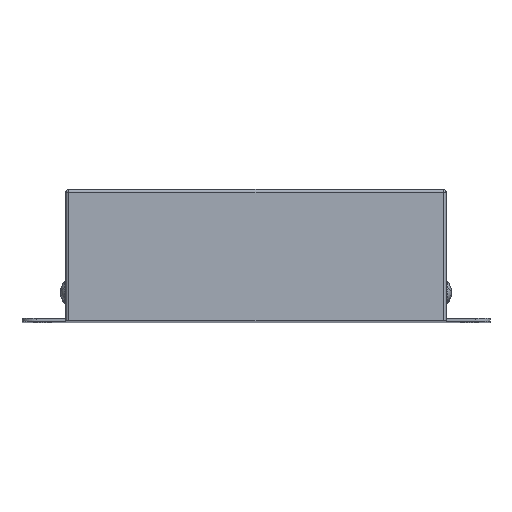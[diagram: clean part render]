
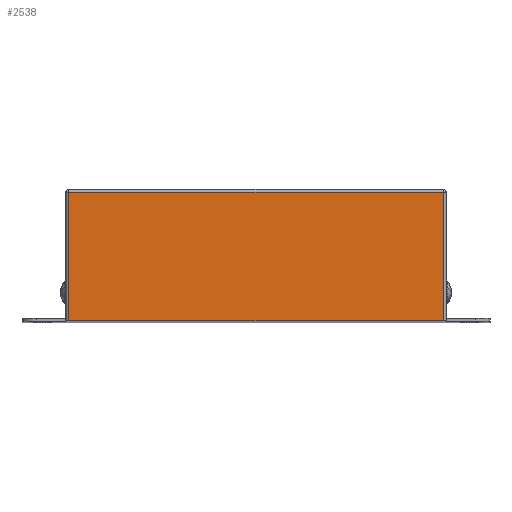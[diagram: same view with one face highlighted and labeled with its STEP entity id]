
A CAD part, top view. The second image highlights one B-rep face of the part: STEP entity #2538.
In plain terms, the highlighted planar face has unit normal (0, 0, 1).
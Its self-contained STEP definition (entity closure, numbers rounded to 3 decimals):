
#55 = ORIENTED_EDGE ( 'NONE', *, *, #1517, .T. ) ;
#156 = CARTESIAN_POINT ( 'NONE',  ( -64., 0., 165. ) ) ;
#248 = LINE ( 'NONE', #2401, #1239 ) ;
#331 = VECTOR ( 'NONE', #2765, 1000. ) ;
#356 = DIRECTION ( 'NONE',  ( 0., 0., 1. ) ) ;
#395 = CARTESIAN_POINT ( 'NONE',  ( -65., 44., 165. ) ) ;
#525 = CARTESIAN_POINT ( 'NONE',  ( 64., 0., 165. ) ) ;
#690 = DIRECTION ( 'NONE',  ( 1., 0., 0. ) ) ;
#699 = VERTEX_POINT ( 'NONE', #994 ) ;
#784 = EDGE_CURVE ( 'NONE', #699, #1827, #1880, .T. ) ;
#986 = PLANE ( 'NONE',  #3393 ) ;
#994 = CARTESIAN_POINT ( 'NONE',  ( 64., 44., 165. ) ) ;
#1001 = CARTESIAN_POINT ( 'NONE',  ( -65., 0., 165. ) ) ;
#1126 = ORIENTED_EDGE ( 'NONE', *, *, #2335, .T. ) ;
#1239 = VECTOR ( 'NONE', #3045, 1000. ) ;
#1517 = EDGE_CURVE ( 'NONE', #3929, #699, #248, .T. ) ;
#1601 = DIRECTION ( 'NONE',  ( 1., 0., 0. ) ) ;
#1827 = VERTEX_POINT ( 'NONE', #2480 ) ;
#1878 = VECTOR ( 'NONE', #3119, 1000. ) ;
#1880 = LINE ( 'NONE', #395, #1878 ) ;
#2091 = ORIENTED_EDGE ( 'NONE', *, *, #784, .T. ) ;
#2335 = EDGE_CURVE ( 'NONE', #1827, #3108, #3648, .T. ) ;
#2401 = CARTESIAN_POINT ( 'NONE',  ( 64., 0., 165. ) ) ;
#2480 = CARTESIAN_POINT ( 'NONE',  ( -64., 44., 165. ) ) ;
#2538 = ADVANCED_FACE ( 'NONE', ( #3093 ), #986, .T. ) ;
#2547 = EDGE_LOOP ( 'NONE', ( #3249, #55, #2091, #1126 ) ) ;
#2548 = EDGE_CURVE ( 'NONE', #3108, #3929, #3128, .T. ) ;
#2725 = CARTESIAN_POINT ( 'NONE',  ( -64., 0., 165. ) ) ;
#2765 = DIRECTION ( 'NONE',  ( 0., -1., 0. ) ) ;
#3045 = DIRECTION ( 'NONE',  ( 0., 1., 0. ) ) ;
#3093 = FACE_OUTER_BOUND ( 'NONE', #2547, .T. ) ;
#3108 = VERTEX_POINT ( 'NONE', #156 ) ;
#3119 = DIRECTION ( 'NONE',  ( -1., 0., 0. ) ) ;
#3128 = LINE ( 'NONE', #1001, #3651 ) ;
#3249 = ORIENTED_EDGE ( 'NONE', *, *, #2548, .T. ) ;
#3393 = AXIS2_PLACEMENT_3D ( 'NONE', #3409, #356, #690 ) ;
#3409 = CARTESIAN_POINT ( 'NONE',  ( -65., 0., 165. ) ) ;
#3648 = LINE ( 'NONE', #2725, #331 ) ;
#3651 = VECTOR ( 'NONE', #1601, 1000. ) ;
#3929 = VERTEX_POINT ( 'NONE', #525 ) ;
